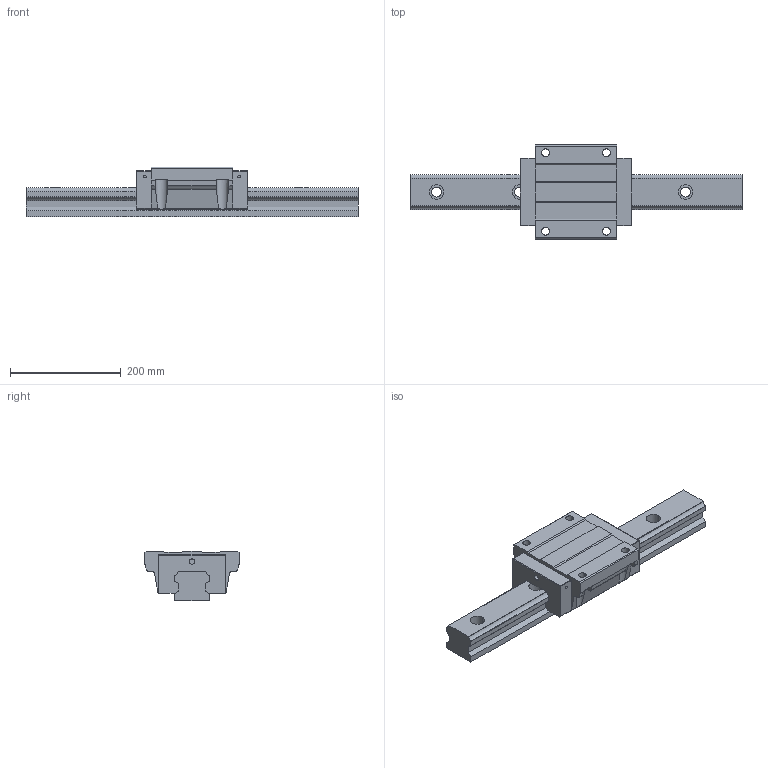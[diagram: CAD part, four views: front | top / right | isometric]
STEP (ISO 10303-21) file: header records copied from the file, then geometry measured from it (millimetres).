
FILE_DESCRIPTION (( 'STEP AP203' ), '1' );
FILE_NAME ('TRH65FL-SU.STEP', '2024-06-26T06:10:37', ( '' ), ( '' ), 'SwSTEP 2.0', 'SolidWorks 2022', '' );
FILE_SCHEMA (( 'CONFIG_CONTROL_DESIGN' ));
Length unit declared in the file: millimetre
Products named in the file (1): TRH65FL-SU
Bounding box: 600 x 170 x 90 mm (x, y, z)
Volume: 3225938.3 mm3; surface area: 297060.7 mm2
Topology: 2 solids, 2 shells, 222 faces, 616 edges, 404 vertices
Faces by surface type: plane 120, cylinder 98, sphere 4
Entity records: 7305 total; most frequent: CARTESIAN_POINT 1425, ORIENTED_EDGE 1224, DIRECTION 1220, EDGE_CURVE 612, AXIS2_PLACEMENT_3D 415, VERTEX_POINT 404, VECTOR 390, LINE 390
